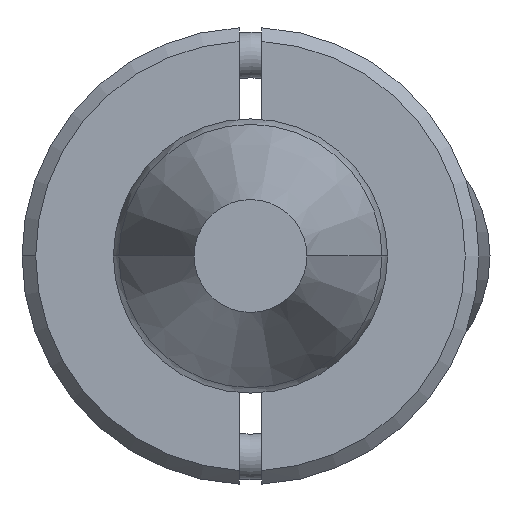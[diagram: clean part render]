
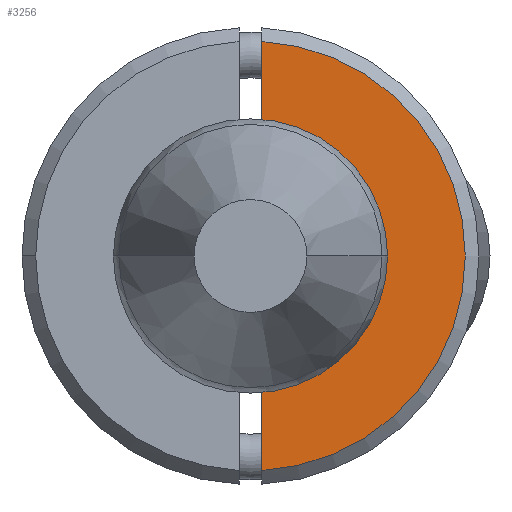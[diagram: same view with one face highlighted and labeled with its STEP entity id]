
A CAD part, front view. The second image highlights one B-rep face of the part: STEP entity #3256.
In plain terms, the highlighted planar face has unit normal (0, -1, 0).
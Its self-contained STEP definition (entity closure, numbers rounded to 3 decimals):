
#1 = LINE ( 'NONE', #3776, #1727 ) ;
#28 = CARTESIAN_POINT ( 'NONE',  ( -2.437, -6., -0.25 ) ) ;
#97 = DIRECTION ( 'NONE',  ( 0., 0., -1. ) ) ;
#99 = CARTESIAN_POINT ( 'NONE',  ( 0., -6., 0. ) ) ;
#122 = ORIENTED_EDGE ( 'NONE', *, *, #2733, .T. ) ;
#160 = DIRECTION ( 'NONE',  ( 0., 0., -1. ) ) ;
#189 = AXIS2_PLACEMENT_3D ( 'NONE', #1588, #2694, #97 ) ;
#357 = VERTEX_POINT ( 'NONE', #561 ) ;
#365 = DIRECTION ( 'NONE',  ( 0., 0., -1. ) ) ;
#489 = AXIS2_PLACEMENT_3D ( 'NONE', #3395, #3670, #160 ) ;
#561 = CARTESIAN_POINT ( 'NONE',  ( 4.693, -6., -0.25 ) ) ;
#586 = ORIENTED_EDGE ( 'NONE', *, *, #2387, .F. ) ;
#627 = EDGE_CURVE ( 'NONE', #2673, #357, #867, .T. ) ;
#641 = DIRECTION ( 'NONE',  ( 1., 0., 0. ) ) ;
#656 = CARTESIAN_POINT ( 'NONE',  ( 2.437, -6., -0.25 ) ) ;
#774 = VERTEX_POINT ( 'NONE', #656 ) ;
#867 = CIRCLE ( 'NONE', #189, 4.7 ) ;
#957 = ORIENTED_EDGE ( 'NONE', *, *, #1256, .F. ) ;
#982 = VERTEX_POINT ( 'NONE', #28 ) ;
#1059 = PLANE ( 'NONE',  #489 ) ;
#1060 = AXIS2_PLACEMENT_3D ( 'NONE', #1432, #3564, #2333 ) ;
#1182 = VECTOR ( 'NONE', #641, 1000. ) ;
#1203 = FACE_OUTER_BOUND ( 'NONE', #1742, .T. ) ;
#1236 = EDGE_CURVE ( 'NONE', #774, #1466, #2678, .T. ) ;
#1256 = EDGE_CURVE ( 'NONE', #774, #357, #3807, .T. ) ;
#1266 = ORIENTED_EDGE ( 'NONE', *, *, #627, .T. ) ;
#1432 = CARTESIAN_POINT ( 'NONE',  ( 0., -6., 0. ) ) ;
#1466 = VERTEX_POINT ( 'NONE', #3010 ) ;
#1588 = CARTESIAN_POINT ( 'NONE',  ( 0., -6., 0. ) ) ;
#1727 = VECTOR ( 'NONE', #2300, 1000. ) ;
#1742 = EDGE_LOOP ( 'NONE', ( #586, #1266, #957, #2727, #122 ) ) ;
#1778 = CARTESIAN_POINT ( 'NONE',  ( -5., -6., -0.25 ) ) ;
#1933 = DIRECTION ( 'NONE',  ( 0., 1., 0. ) ) ;
#2195 = CARTESIAN_POINT ( 'NONE',  ( -4.693, -6., -0.25 ) ) ;
#2300 = DIRECTION ( 'NONE',  ( 1., 0., 0. ) ) ;
#2333 = DIRECTION ( 'NONE',  ( 0., 0., -1. ) ) ;
#2387 = EDGE_CURVE ( 'NONE', #2673, #982, #1, .T. ) ;
#2658 = AXIS2_PLACEMENT_3D ( 'NONE', #99, #1933, #365 ) ;
#2673 = VERTEX_POINT ( 'NONE', #2195 ) ;
#2678 = CIRCLE ( 'NONE', #1060, 2.45 ) ;
#2694 = DIRECTION ( 'NONE',  ( 0., -1., 0. ) ) ;
#2727 = ORIENTED_EDGE ( 'NONE', *, *, #1236, .T. ) ;
#2733 = EDGE_CURVE ( 'NONE', #1466, #982, #3531, .T. ) ;
#3010 = CARTESIAN_POINT ( 'NONE',  ( 0., -6., -2.45 ) ) ;
#3256 = ADVANCED_FACE ( 'NONE', ( #1203 ), #1059, .T. ) ;
#3395 = CARTESIAN_POINT ( 'NONE',  ( -5., -6., 0. ) ) ;
#3531 = CIRCLE ( 'NONE', #2658, 2.45 ) ;
#3564 = DIRECTION ( 'NONE',  ( 0., 1., 0. ) ) ;
#3670 = DIRECTION ( 'NONE',  ( 0., -1., 0. ) ) ;
#3776 = CARTESIAN_POINT ( 'NONE',  ( -5., -6., -0.25 ) ) ;
#3807 = LINE ( 'NONE', #1778, #1182 ) ;
